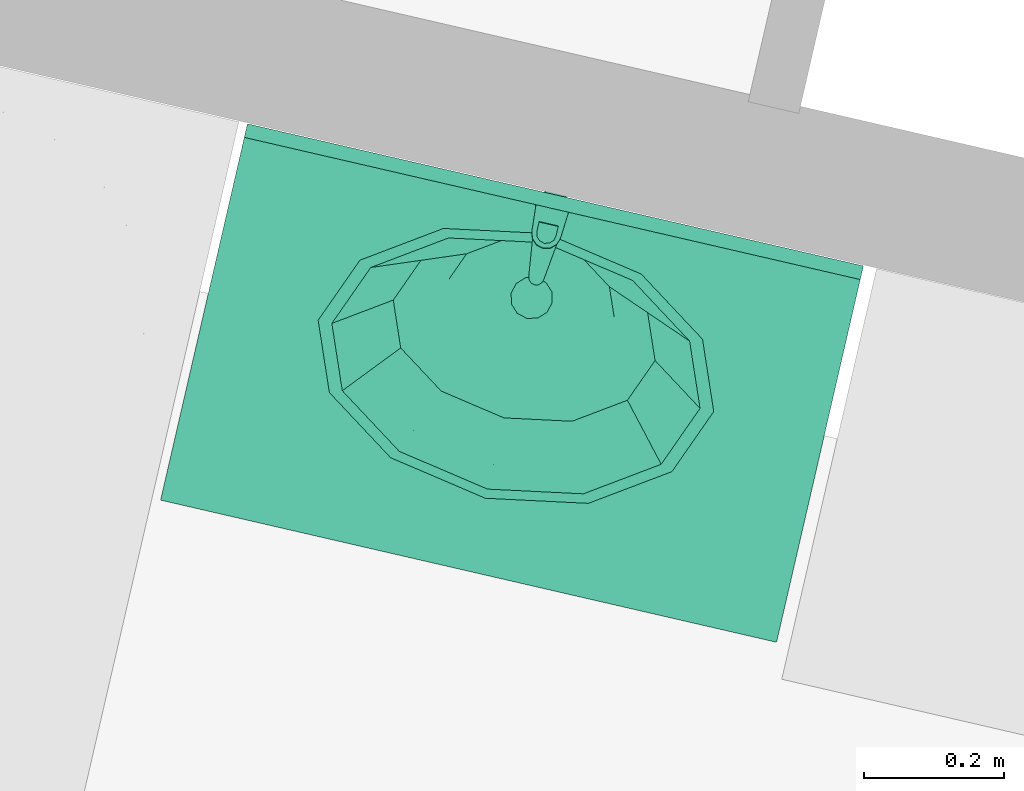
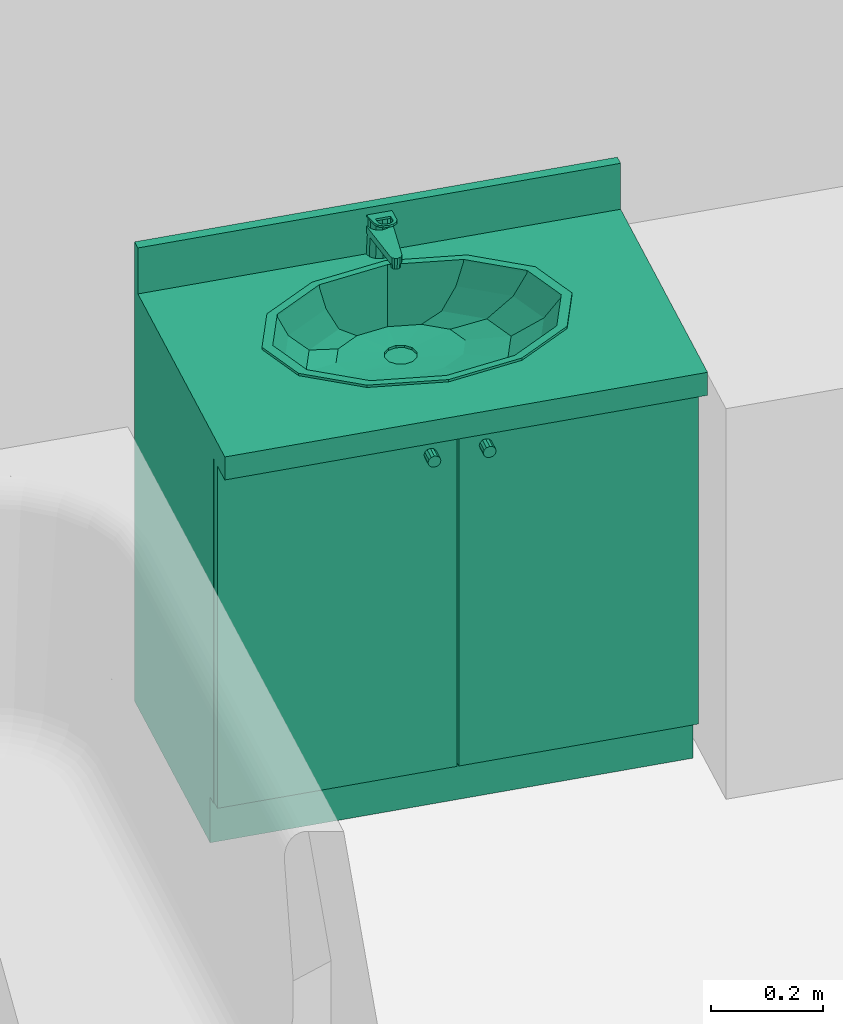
# One storey, part 115 of 119: 1 flow terminal.
"""IFC2X3 building model written with IfcOpenShell, lengths in metres."""

import ifcopenshell
import ifcopenshell.guid

model = None  # the IFC model being written
_history = None  # IfcOwnerHistory: only IFC2X3 demands one
_inside = {}  # id of a spatial element -> (the spatial element, [elements in it])
_under = {}  # id of a project, library or spatial element -> (it, [spatial elements below it])
_declared = {}  # id of a project -> (the project, [libraries it declares])
_typed = {}  # id of a type object -> (the type object, [elements of that type])
_made_of = {}  # id of a material, layer set ... -> (it, [elements and type objects made of it])


def new_model(schema):
    """Start an empty IFC model of exactly this schema.

    Asked for "IFC4X3", IfcOpenShell would pick the latest addendum, in which some entities
    have other attributes; the version numbers below select the first issue.
    IFC2X3 requires an IfcOwnerHistory on every rooted entity: one is made here for all.
    """
    global model, _history
    if schema == "IFC4X3":
        model = ifcopenshell.file(schema_version=(4, 3, 0, 0))
    else:
        model = ifcopenshell.file(schema=schema)
    _inside.clear()
    _under.clear()
    _declared.clear()
    _typed.clear()
    _made_of.clear()
    _history = None
    if model.schema == "IFC2X3":
        org = make("IfcOrganization", Name="unknown")
        user = make(
            "IfcPersonAndOrganization",
            ThePerson=make("IfcPerson", FamilyName="unknown"),
            TheOrganization=org,
        )
        app = make(
            "IfcApplication",
            ApplicationDeveloper=org,
            Version="unknown",
            ApplicationFullName="unknown",
            ApplicationIdentifier="unknown",
        )
        _history = make(
            "IfcOwnerHistory",
            OwningUser=user,
            OwningApplication=app,
            ChangeAction="ADDED",
            CreationDate=0,
        )
    return model


def make(cls, **values):
    """One entity of the class cls with the attributes given. An attribute that is None is left unset."""
    return model.create_entity(
        cls, **{name: value for name, value in values.items() if value is not None}
    )


def entity(cls, *values):
    """Any entity or typed value of the class cls, its attributes in the order of the schema. None: left unset."""
    e = model.create_entity(cls)
    for i, value in enumerate(values):
        if value is not None:
            e[i] = value
    return e


def rooted(cls, **values):
    """An entity with a GlobalId (a new one), such as an element, a storey or a relation."""
    return make(cls, GlobalId=ifcopenshell.guid.new(), OwnerHistory=_history, **values)


def si_unit(unit_type, name, prefix=None):
    """IfcSIUnit, for example si_unit("LENGTHUNIT", "METRE", prefix="MILLI")."""
    return make("IfcSIUnit", UnitType=unit_type, Prefix=prefix, Name=name)


def converted_unit(unit_type, name, factor, base, dimensions=None, offset=None):
    """IfcConversionBasedUnit, such as the inch: factor (a typed value) times the base unit."""
    return make(
        "IfcConversionBasedUnit"
        if offset is None
        else "IfcConversionBasedUnitWithOffset",
        ConversionOffset=offset,
        Dimensions=None
        if dimensions is None
        else entity("IfcDimensionalExponents", *dimensions),
        UnitType=unit_type,
        Name=name,
        ConversionFactor=make(
            "IfcMeasureWithUnit", ValueComponent=factor, UnitComponent=base
        ),
    )


def derived_unit(unit_type, elements):
    """IfcDerivedUnit: a product of units, each with its exponent."""
    return make(
        "IfcDerivedUnit",
        Elements=[
            make("IfcDerivedUnitElement", Unit=unit, Exponent=power)
            for unit, power in elements
        ],
        UnitType=unit_type,
    )


def money_unit(currency):
    """IfcMonetaryUnit."""
    return make("IfcMonetaryUnit", Currency=currency)


def assignment(units):
    """IfcUnitAssignment: the units of a project."""
    return None if units is None else make("IfcUnitAssignment", Units=units)


def point(xyz):
    """IfcCartesianPoint."""
    return None if xyz is None else make("IfcCartesianPoint", Coordinates=xyz)


def direction(xyz):
    """IfcDirection."""
    return None if xyz is None else make("IfcDirection", DirectionRatios=xyz)


def frame(location, z_axis=None, x_axis=None):
    """IfcAxis2Placement3D, a coordinate frame: its origin and axes. An axis left out is left unset."""
    return make(
        "IfcAxis2Placement3D",
        Location=point(location),
        Axis=direction(z_axis),
        RefDirection=direction(x_axis),
    )


def origin_with_axes():
    """The frame at (0, 0, 0) with the z axis (0, 0, 1) and the x axis (1, 0, 0) written out."""
    return frame((0.0, 0.0, 0.0), z_axis=(0.0, 0.0, 1.0), x_axis=(1.0, 0.0, 0.0))


def place(relative_to, where):
    """IfcLocalPlacement: puts the frame where relative to a parent placement (None: the world)."""
    return make(
        "IfcLocalPlacement", PlacementRelTo=relative_to, RelativePlacement=where
    )


def context(
    kind, dimensions, precision=None, world=None, true_north=None, identifier=None
):
    """IfcGeometricRepresentationContext, for example the 3D "Model" context."""
    return make(
        "IfcGeometricRepresentationContext",
        ContextIdentifier=identifier,
        ContextType=kind,
        CoordinateSpaceDimension=dimensions,
        Precision=precision,
        WorldCoordinateSystem=world,
        TrueNorth=true_north,
    )


def subcontext(parent, identifier, kind, view, scale=None):
    """IfcGeometricRepresentationSubContext, for example "Body" below "Model"."""
    return make(
        "IfcGeometricRepresentationSubContext",
        ContextIdentifier=identifier,
        ContextType=kind,
        ParentContext=parent,
        TargetScale=scale,
        TargetView=view,
    )


def project(units=None, contexts=None):
    """IfcProject with its units and contexts."""
    return rooted(
        "IfcProject",
        Name="project",
        RepresentationContexts=contexts,
        UnitsInContext=assignment(units),
    )


def spatial(cls, under=None, at=None, **own):
    """A site, building, storey or space (cls), placed at a placement, below another one or the project."""
    s = rooted(cls, ObjectPlacement=at, **own)
    if under is not None:
        _under.setdefault(under.id(), (under, []))[1].append(s)
    return s


def faces_of(points, faces, orient=None, outer=None):
    """IfcFace entities. A face is a list of loops; a loop is a list of indices into points, from 0.

    orient and outer hold one flag for each loop. By default every Orientation is true, the
    first loop of a face is its IfcFaceOuterBound and the others are IfcFaceBound.
    """
    made = []
    for i, loops in enumerate(faces):
        bounds = []
        for j, loop in enumerate(loops):
            is_outer = j == 0 if outer is None else outer[i][j]
            bounds.append(
                make(
                    "IfcFaceOuterBound" if is_outer else "IfcFaceBound",
                    Bound=make("IfcPolyLoop", Polygon=[points[k] for k in loop]),
                    Orientation=True if orient is None else orient[i][j],
                )
            )
        made.append(make("IfcFace", Bounds=bounds))
    return made


def open_shell(faces, orient=None, outer=None):
    """The faces of one IfcOpenShell. surface_model builds it on its shared points."""
    return ("IfcOpenShell", faces, orient, outer)


def faceted_brep(points, faces, orient=None, outer=None, voids=None):
    """IfcFacetedBrep: a solid bounded by flat faces; with voids (closed shells), ...WithVoids."""
    shared = [point(p) for p in points]
    hull = make("IfcClosedShell", CfsFaces=faces_of(shared, faces, orient, outer))
    if voids is None:
        return make("IfcFacetedBrep", Outer=hull)
    return make(
        "IfcFacetedBrepWithVoids",
        Outer=hull,
        Voids=[
            make(cls, CfsFaces=faces_of(shared, fs, o, b)) for cls, fs, o, b in voids
        ],
    )


def surface_model(cls, points, shells):
    """IfcFaceBasedSurfaceModel or IfcShellBasedSurfaceModel (cls): surfaces that need not close."""
    shared = [point(p) for p in points]
    made = [make(c, CfsFaces=faces_of(shared, fs, o, b)) for c, fs, o, b in shells]
    if cls == "IfcFaceBasedSurfaceModel":
        return make(cls, FbsmFaces=made)
    return make(cls, SbsmBoundary=made)


def shape(context_of_items, identifier, shape_type, items):
    """IfcShapeRepresentation: the items that make up one representation, for example the "Body"."""
    return make(
        "IfcShapeRepresentation",
        ContextOfItems=context_of_items,
        RepresentationIdentifier=identifier,
        RepresentationType=shape_type,
        Items=items,
    )


def made_of(thing, what):
    """Note that an element or type object is made of a material, layer set ...; save() writes the relation."""
    if what is not None:
        _made_of.setdefault(what.id(), (what, []))[1].append(thing)
    return thing


def type_object(cls, material=None, **own):
    """A type object (cls), such as IfcWallType, which elements share."""
    return made_of(rooted(cls, **own), material)


def element(
    cls,
    number,
    at=None,
    inside=None,
    cuts=None,
    type_object=None,
    material=None,
    context=None,
    identifier="Body",
    shape_type=None,
    held_by="IfcProductDefinitionShape",
    body=None,
    shapes=None,
    **own,
):
    """One element of the class cls, such as IfcWall. Its Tag is "e" and its number.

    at: its placement. inside: the storey or other place that contains it. cuts: it is an
    opening in that element (IfcRelVoidsElement). A single representation is given by context,
    identifier, shape_type and body (its items); several are given by shapes. held_by: the class
    of the entity that holds the representations. save() writes the other relations.
    """
    e = rooted(cls, Tag="e%d" % number, ObjectPlacement=at, **own)
    if body is not None:
        shapes = [shape(context, identifier, shape_type, body)]
    if shapes is not None:
        e.Representation = make(held_by, Representations=shapes)
    if inside is not None:
        _inside.setdefault(inside.id(), (inside, []))[1].append(e)
    if cuts is not None:
        rooted(
            "IfcRelVoidsElement", RelatingBuildingElement=cuts, RelatedOpeningElement=e
        )
    if type_object is not None:
        _typed.setdefault(type_object.id(), (type_object, []))[1].append(e)
    return made_of(e, material)


def aggregate(whole, parts):
    """IfcRelAggregates: a whole, such as a stair, and the parts it consists of."""
    return rooted("IfcRelAggregates", RelatingObject=whole, RelatedObjects=parts)


def save(model, path):
    """Write the relations noted so far, then the file.

    IfcRelAggregates (storeys below a building ...), IfcRelContainedInSpatialStructure (elements
    in a storey), IfcRelDefinesByType, IfcRelAssociatesMaterial and IfcRelDeclares: one each for
    every whole, place, type object, material and project.
    """
    for whole, parts in _under.values():
        aggregate(whole, parts)
    for where, things in _inside.values():
        rooted(
            "IfcRelContainedInSpatialStructure",
            RelatedElements=things,
            RelatingStructure=where,
        )
    for kind, things in _typed.values():
        rooted("IfcRelDefinesByType", RelatedObjects=things, RelatingType=kind)
    for what, things in _made_of.values():
        rooted("IfcRelAssociatesMaterial", RelatedObjects=things, RelatingMaterial=what)
    for by, libraries in _declared.values():
        rooted("IfcRelDeclares", RelatingContext=by, RelatedDefinitions=libraries)
    model.write(path)


model = new_model("IFC2X3")

# Units and contexts
model_context = context("Model", 3, precision=1e-05, world=origin_with_axes(), true_north=direction((0.0, 1.0)))
body_context = subcontext(model_context, "Body", "Model", "MODEL_VIEW")
ifc_project = project(units=[si_unit("LENGTHUNIT", "METRE"), si_unit("AREAUNIT", "SQUARE_METRE"), si_unit("VOLUMEUNIT", "CUBIC_METRE"), converted_unit("PLANEANGLEUNIT", "DEGREE", entity("IfcPlaneAngleMeasure", 0.0174532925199), si_unit("PLANEANGLEUNIT", "RADIAN"), dimensions=[0, 0, 0, 0, 0, 0, 0]), si_unit("SOLIDANGLEUNIT", "STERADIAN"), money_unit("EUR"), converted_unit("TIMEUNIT", "Year", entity("IfcTimeMeasure", 31556926.0), si_unit("TIMEUNIT", "SECOND"), dimensions=[0, 0, 1, 0, 0, 0, 0]), si_unit("MASSUNIT", "GRAM", prefix="KILO"), si_unit("THERMODYNAMICTEMPERATUREUNIT", "DEGREE_CELSIUS"), si_unit("LUMINOUSINTENSITYUNIT", "LUMEN"), si_unit("ENERGYUNIT", "JOULE", prefix="MEGA"), derived_unit("THERMALCONDUCTANCEUNIT", [(si_unit("POWERUNIT", "WATT"), 1), (si_unit("LENGTHUNIT", "METRE"), -1), (si_unit("THERMODYNAMICTEMPERATUREUNIT", "KELVIN"), -1)]), derived_unit("SPECIFICHEATCAPACITYUNIT", [(si_unit("ENERGYUNIT", "JOULE"), 1), (si_unit("MASSUNIT", "GRAM", prefix="KILO"), -1), (si_unit("THERMODYNAMICTEMPERATUREUNIT", "KELVIN"), -1)]), derived_unit("MASSDENSITYUNIT", [(si_unit("MASSUNIT", "GRAM", prefix="KILO"), 1), (si_unit("VOLUMEUNIT", "CUBIC_METRE"), -1)])], contexts=[model_context])

# Site, building, storey
site_placement = place(None, origin_with_axes())
site = spatial("IfcSite", under=ifc_project, at=site_placement, Name="Site", CompositionType="ELEMENT")
building_placement = place(site_placement, origin_with_axes())
building = spatial("IfcBuilding", under=site, at=building_placement, Name="Bâtiment", CompositionType="ELEMENT")
storey_placement = place(building_placement, origin_with_axes())
storey = spatial("IfcBuildingStorey", under=building, at=storey_placement, Name="Rez-de-chaussée", CompositionType="ELEMENT", Elevation=0.0)

# Flow terminal
sanitary_terminal_type = type_object("IfcSanitaryTerminalType", Name="Lavabo sur meuble 23", PredefinedType="NOTDEFINED")
flow_terminal_placement = place(storey_placement, frame((-4.16457030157, 13.2433466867, 0.0), z_axis=(0.0, 0.0, 1.0), x_axis=(0.974387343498, -0.224876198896, 0.0)))
element("IfcFlowTerminal", 1, at=flow_terminal_placement, inside=storey, type_object=sanitary_terminal_type, Name="MOB-002", ObjectType="SANITARY_TERMINAL", context=body_context, shape_type="SurfaceModel", body=[
    faceted_brep([(0.0, 0.09, 0.0), (0.0, 0.09, 0.1), (-0.9, 0.09, 0.1), (-0.9, 0.09, 0.0), (0.0, 0.55, 0.0), (0.0, 0.55, 0.1), (-0.9, 0.55, 0.1), (-0.9, 0.55, 0.0)], [[[0, 1, 2, 3]], [[4, 5, 1, 0]], [[1, 5, 6, 2]], [[3, 2, 6, 7]], [[0, 3, 7, 4]], [[7, 6, 5, 4]]]),
    faceted_brep([(0.0, 0.07, 0.1), (0.0, 0.07, 0.12), (-0.02, 0.07, 0.12), (-0.02, 0.07, 0.1), (0.0, 0.55, 0.1), (0.0, 0.55, 0.12), (-0.02, 0.55, 0.12), (-0.88, 0.55, 0.12), (-0.9, 0.55, 0.12), (-0.9, 0.07, 0.12), (-0.88, 0.07, 0.12), (-0.88, 0.07, 0.1), (-0.9, 0.07, 0.1), (-0.9, 0.55, 0.1), (-0.88, 0.55, 0.1), (-0.02, 0.55, 0.1)], [[[0, 1, 2, 3]], [[4, 5, 1, 0]], [[1, 5, 6, 7, 8, 9, 10, 2]], [[3, 2, 10, 11]], [[0, 3, 11, 12, 13, 14, 15, 4]], [[15, 6, 5, 4]], [[14, 7, 6, 15]], [[13, 8, 7, 14]], [[12, 9, 8, 13]], [[11, 10, 9, 12]]]),
    faceted_brep([(0.0, 0.07, 0.12), (0.0, 0.07, 0.85), (-0.02, 0.07, 0.85), (-0.02, 0.07, 0.12), (0.0, 0.55, 0.12), (0.0, 0.55, 0.85), (-0.9, 0.55, 0.85), (-0.9, 0.07, 0.85), (-0.88, 0.07, 0.85), (-0.88, 0.53, 0.85), (-0.02, 0.53, 0.85), (-0.02, 0.53, 0.12), (-0.88, 0.53, 0.12), (-0.88, 0.07, 0.12), (-0.9, 0.07, 0.12), (-0.9, 0.55, 0.12)], [[[0, 1, 2, 3]], [[4, 5, 1, 0]], [[1, 5, 6, 7, 8, 9, 10, 2]], [[3, 2, 10, 11]], [[0, 3, 11, 12, 13, 14, 15, 4]], [[15, 6, 5, 4]], [[14, 7, 6, 15]], [[13, 8, 7, 14]], [[12, 9, 8, 13]], [[11, 10, 9, 12]]]),
    faceted_brep([(-0.88, 0.07, 0.323333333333), (-0.88, 0.07, 0.343333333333), (-0.88, 0.53, 0.343333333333), (-0.88, 0.53, 0.323333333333), (-0.02, 0.07, 0.323333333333), (-0.02, 0.07, 0.343333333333), (-0.02, 0.53, 0.343333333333), (-0.02, 0.53, 0.323333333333)], [[[0, 1, 2, 3]], [[4, 5, 1, 0]], [[1, 5, 6, 2]], [[3, 2, 6, 7]], [[0, 3, 7, 4]], [[7, 6, 5, 4]]]),
    faceted_brep([(-0.88, 0.07, 0.566666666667), (-0.88, 0.07, 0.586666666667), (-0.88, 0.53, 0.586666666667), (-0.88, 0.53, 0.566666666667), (-0.02, 0.07, 0.566666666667), (-0.02, 0.07, 0.586666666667), (-0.02, 0.53, 0.586666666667), (-0.02, 0.53, 0.566666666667)], [[[0, 1, 2, 3]], [[4, 5, 1, 0]], [[1, 5, 6, 2]], [[3, 2, 6, 7]], [[0, 3, 7, 4]], [[7, 6, 5, 4]]]),
    faceted_brep([(0.0, 0.55, 0.85), (0.0, 0.0, 0.85), (-0.9, 0.0, 0.85), (-0.9, 0.55, 0.85), (-0.585, 0.144115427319, 0.85), (-0.45, 0.12, 0.85), (-0.315, 0.144115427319, 0.85), (-0.216173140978, 0.21, 0.85), (-0.18, 0.3, 0.85), (-0.216173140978, 0.39, 0.85), (-0.315, 0.455884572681, 0.85), (-0.45, 0.48, 0.85), (-0.585, 0.455884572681, 0.85), (-0.683826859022, 0.39, 0.85), (-0.72, 0.3, 0.85), (-0.683826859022, 0.21, 0.85), (0.0, 0.55, 0.9), (0.0, 0.0, 0.9), (-0.9, 0.0, 0.9), (-0.9, 0.55, 0.9), (-0.45, 0.12, 0.9), (-0.585, 0.144115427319, 0.9), (-0.315, 0.144115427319, 0.9), (-0.216173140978, 0.21, 0.9), (-0.18, 0.3, 0.9), (-0.216173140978, 0.39, 0.9), (-0.315, 0.455884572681, 0.9), (-0.45, 0.48, 0.9), (-0.585, 0.455884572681, 0.9), (-0.683826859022, 0.39, 0.9), (-0.72, 0.3, 0.9), (-0.683826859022, 0.21, 0.9)], [[[0, 1, 2, 3], [4, 5, 6, 7, 8, 9, 10, 11, 12, 13, 14, 15]], [[1, 0, 16, 17]], [[2, 1, 17, 18]], [[3, 2, 18, 19]], [[0, 3, 19, 16]], [[20, 5, 4, 21]], [[22, 6, 5, 20]], [[23, 7, 6, 22]], [[24, 8, 7, 23]], [[25, 9, 8, 24]], [[26, 10, 9, 25]], [[27, 11, 10, 26]], [[28, 12, 11, 27]], [[29, 13, 12, 28]], [[30, 14, 13, 29]], [[31, 15, 14, 30]], [[21, 4, 15, 31]], [[18, 17, 16, 19], [28, 27, 26, 25, 24, 23, 22, 20, 21, 31, 30, 29]]]),
    faceted_brep([(0.0, 0.53, 0.9), (0.0, 0.53, 1.0), (-0.9, 0.53, 1.0), (-0.9, 0.53, 0.9), (0.0, 0.55, 0.9), (0.0, 0.55, 1.0), (-0.9, 0.55, 1.0), (-0.9, 0.55, 0.9)], [[[0, 1, 2, 3]], [[4, 5, 1, 0]], [[1, 5, 6, 2]], [[3, 2, 6, 7]], [[0, 3, 7, 4]], [[7, 6, 5, 4]]]),
    faceted_brep([(-0.739, 0.3, 0.905), (-0.700281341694, 0.396691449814, 0.905), (-0.700281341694, 0.396691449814, 0.9), (-0.739, 0.3, 0.9), (-0.700281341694, 0.203308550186, 0.905), (-0.5945, 0.132525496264, 0.905), (-0.45, 0.106617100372, 0.905), (-0.3055, 0.132525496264, 0.905), (-0.199718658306, 0.203308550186, 0.905), (-0.161, 0.3, 0.905), (-0.199718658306, 0.396691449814, 0.905), (-0.3055, 0.467474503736, 0.905), (-0.45, 0.493382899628, 0.905), (-0.5945, 0.467474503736, 0.905), (-0.719, 0.3, 0.905), (-0.682960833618, 0.39, 0.905), (-0.5845, 0.455884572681, 0.905), (-0.45, 0.48, 0.905), (-0.3155, 0.455884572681, 0.905), (-0.217039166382, 0.39, 0.905), (-0.181, 0.3, 0.905), (-0.217039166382, 0.21, 0.905), (-0.3155, 0.144115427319, 0.905), (-0.45, 0.12, 0.905), (-0.5845, 0.144115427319, 0.905), (-0.682960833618, 0.21, 0.905), (-0.5945, 0.467474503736, 0.9), (-0.45, 0.493382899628, 0.9), (-0.3055, 0.467474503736, 0.9), (-0.199718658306, 0.396691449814, 0.9), (-0.161, 0.3, 0.9), (-0.199718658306, 0.203308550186, 0.9), (-0.3055, 0.132525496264, 0.9), (-0.45, 0.106617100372, 0.9), (-0.5945, 0.132525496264, 0.9), (-0.700281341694, 0.203308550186, 0.9), (-0.719, 0.3, 0.9), (-0.682960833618, 0.21, 0.9), (-0.5845, 0.144115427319, 0.9), (-0.45, 0.12, 0.9), (-0.3155, 0.144115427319, 0.9), (-0.217039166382, 0.21, 0.9), (-0.181, 0.3, 0.9), (-0.217039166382, 0.39, 0.9), (-0.3155, 0.455884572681, 0.9), (-0.45, 0.48, 0.9), (-0.5845, 0.455884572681, 0.9), (-0.682960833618, 0.39, 0.9)], [[[0, 1, 2, 3]], [[0, 4, 5, 6, 7, 8, 9, 10, 11, 12, 13, 1], [14, 15, 16, 17, 18, 19, 20, 21, 22, 23, 24, 25]], [[1, 13, 26, 2]], [[3, 2, 26, 27, 28, 29, 30, 31, 32, 33, 34, 35], [36, 37, 38, 39, 40, 41, 42, 43, 44, 45, 46, 47]], [[4, 0, 3, 35]], [[5, 4, 35, 34]], [[6, 5, 34, 33]], [[7, 6, 33, 32]], [[8, 7, 32, 31]], [[9, 8, 31, 30]], [[10, 9, 30, 29]], [[11, 10, 29, 28]], [[12, 11, 28, 27]], [[13, 12, 27, 26]], [[15, 14, 36, 47]], [[16, 15, 47, 46]], [[17, 16, 46, 45]], [[18, 17, 45, 44]], [[19, 18, 44, 43]], [[20, 19, 43, 42]], [[21, 20, 42, 41]], [[22, 21, 41, 40]], [[23, 22, 40, 39]], [[24, 23, 39, 38]], [[25, 24, 38, 37]], [[14, 25, 37, 36]]]),
    surface_model("IfcShellBasedSurfaceModel", [(-0.45, 0.48, 0.9), (-0.5845, 0.455884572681, 0.9), (-0.57105, 0.458296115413, 0.848), (-0.45, 0.48, 0.848), (-0.682960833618, 0.39, 0.9), (-0.659664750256, 0.399, 0.848), (-0.3155, 0.455884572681, 0.9), (-0.32895, 0.458296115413, 0.848), (-0.719, 0.3, 0.9), (-0.6921, 0.318, 0.848), (-0.217039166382, 0.39, 0.9), (-0.240335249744, 0.399, 0.848), (-0.682960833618, 0.21, 0.9), (-0.659664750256, 0.237, 0.848), (-0.181, 0.3, 0.9), (-0.2079, 0.318, 0.848), (-0.5845, 0.144115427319, 0.9), (-0.57105, 0.177703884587, 0.848), (-0.217039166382, 0.21, 0.9), (-0.240335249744, 0.237, 0.848), (-0.45, 0.12, 0.9), (-0.45, 0.156, 0.848), (-0.3155, 0.144115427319, 0.9), (-0.32895, 0.177703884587, 0.848)], [open_shell([[[0, 1, 2, 3]], [[1, 4, 5, 2]], [[6, 0, 3, 7]], [[4, 8, 9, 5]], [[10, 6, 7, 11]], [[8, 12, 13, 9]], [[14, 10, 11, 15]], [[12, 16, 17, 13]], [[18, 14, 15, 19]], [[16, 20, 21, 17]], [[22, 18, 19, 23]], [[20, 22, 23, 21]]])]),
    surface_model("IfcShellBasedSurfaceModel", [(-0.45, 0.48, 0.848), (-0.57105, 0.458296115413, 0.848), (-0.5456295, 0.462853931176, 0.796), (-0.45, 0.48, 0.796), (-0.659664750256, 0.399, 0.848), (-0.615635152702, 0.41601, 0.796), (-0.32895, 0.458296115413, 0.848), (-0.3543705, 0.462853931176, 0.796), (-0.6921, 0.318, 0.848), (-0.641259, 0.35202, 0.796), (-0.240335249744, 0.399, 0.848), (-0.284364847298, 0.41601, 0.796), (-0.659664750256, 0.237, 0.848), (-0.615635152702, 0.28803, 0.796), (-0.2079, 0.318, 0.848), (-0.258741, 0.35202, 0.796), (-0.57105, 0.177703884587, 0.848), (-0.5456295, 0.241186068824, 0.796), (-0.240335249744, 0.237, 0.848), (-0.284364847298, 0.28803, 0.796), (-0.45, 0.156, 0.848), (-0.45, 0.22404, 0.796), (-0.32895, 0.177703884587, 0.848), (-0.3543705, 0.241186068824, 0.796)], [open_shell([[[0, 1, 2, 3]], [[1, 4, 5, 2]], [[6, 0, 3, 7]], [[4, 8, 9, 5]], [[10, 6, 7, 11]], [[8, 12, 13, 9]], [[14, 10, 11, 15]], [[12, 16, 17, 13]], [[18, 14, 15, 19]], [[16, 20, 21, 17]], [[22, 18, 19, 23]], [[20, 22, 23, 21]]])]),
    surface_model("IfcShellBasedSurfaceModel", [(-0.45, 0.48, 0.796), (-0.5456295, 0.462853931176, 0.796), (-0.510246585, 0.469197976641, 0.77), (-0.45, 0.48, 0.77), (-0.615635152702, 0.41601, 0.796), (-0.554350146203, 0.4396863, 0.77), (-0.3543705, 0.462853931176, 0.796), (-0.389753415, 0.469197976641, 0.77), (-0.641259, 0.35202, 0.796), (-0.57049317, 0.3993726, 0.77), (-0.284364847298, 0.41601, 0.796), (-0.345649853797, 0.4396863, 0.77), (-0.615635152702, 0.28803, 0.796), (-0.554350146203, 0.3590589, 0.77), (-0.258741, 0.35202, 0.796), (-0.32950683, 0.3993726, 0.77), (-0.5456295, 0.241186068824, 0.796), (-0.510246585, 0.329547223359, 0.77), (-0.284364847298, 0.28803, 0.796), (-0.345649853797, 0.3590589, 0.77), (-0.45, 0.22404, 0.796), (-0.45, 0.3187452, 0.77), (-0.3543705, 0.241186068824, 0.796), (-0.389753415, 0.329547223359, 0.77)], [open_shell([[[0, 1, 2, 3]], [[1, 4, 5, 2]], [[6, 0, 3, 7]], [[4, 8, 9, 5]], [[10, 6, 7, 11]], [[8, 12, 13, 9]], [[14, 10, 11, 15]], [[12, 16, 17, 13]], [[18, 14, 15, 19]], [[16, 20, 21, 17]], [[22, 18, 19, 23]], [[20, 22, 23, 21]]])]),
    surface_model("IfcShellBasedSurfaceModel", [(-0.45, 0.48, 0.77), (-0.510246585, 0.469197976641, 0.77), (-0.465, 0.425353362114, 0.763), (-0.475980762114, 0.4143726, 0.763), (-0.45, 0.4293726, 0.763), (-0.554350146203, 0.4396863, 0.77), (-0.389753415, 0.469197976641, 0.77), (-0.48, 0.3993726, 0.763), (-0.435, 0.425353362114, 0.763), (-0.57049317, 0.3993726, 0.77), (-0.345649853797, 0.4396863, 0.77), (-0.475980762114, 0.3843726, 0.763), (-0.424019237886, 0.4143726, 0.763), (-0.554350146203, 0.3590589, 0.77), (-0.32950683, 0.3993726, 0.77), (-0.465, 0.373391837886, 0.763), (-0.42, 0.3993726, 0.763), (-0.510246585, 0.329547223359, 0.77), (-0.345649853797, 0.3590589, 0.77), (-0.45, 0.3693726, 0.763), (-0.424019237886, 0.3843726, 0.763), (-0.45, 0.3187452, 0.77), (-0.389753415, 0.329547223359, 0.77), (-0.435, 0.373391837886, 0.763)], [open_shell([[[0, 1, 2]], [[1, 3, 2]], [[0, 2, 4]], [[1, 5, 3]], [[6, 0, 4]], [[5, 7, 3]], [[6, 4, 8]], [[5, 9, 7]], [[10, 6, 8]], [[9, 11, 7]], [[10, 8, 12]], [[9, 13, 11]], [[14, 10, 12]], [[13, 15, 11]], [[14, 12, 16]], [[13, 17, 15]], [[18, 14, 16]], [[17, 19, 15]], [[18, 16, 20]], [[17, 21, 19]], [[22, 18, 20]], [[21, 23, 19]], [[22, 20, 23]], [[21, 22, 23]]])]),
    surface_model("IfcShellBasedSurfaceModel", [(-0.48, 0.3993726, 0.763), (-0.475980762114, 0.4143726, 0.763), (-0.475980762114, 0.4143726, 0.758), (-0.48, 0.3993726, 0.758), (-0.465, 0.425353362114, 0.763), (-0.465, 0.425353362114, 0.758), (-0.45, 0.4293726, 0.758), (-0.435, 0.425353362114, 0.758), (-0.424019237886, 0.4143726, 0.758), (-0.42, 0.3993726, 0.758), (-0.424019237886, 0.3843726, 0.758), (-0.435, 0.373391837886, 0.758), (-0.45, 0.3693726, 0.758), (-0.465, 0.373391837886, 0.758), (-0.475980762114, 0.3843726, 0.758), (-0.475980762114, 0.3843726, 0.763), (-0.45, 0.4293726, 0.763), (-0.435, 0.425353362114, 0.763), (-0.424019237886, 0.4143726, 0.763), (-0.42, 0.3993726, 0.763), (-0.424019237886, 0.3843726, 0.763), (-0.435, 0.373391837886, 0.763), (-0.45, 0.3693726, 0.763), (-0.465, 0.373391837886, 0.763)], [open_shell([[[0, 1, 2, 3]], [[1, 4, 5, 2]], [[3, 2, 5, 6, 7, 8, 9, 10, 11, 12, 13, 14]], [[15, 0, 3, 14]], [[4, 16, 6, 5]], [[16, 17, 7, 6]], [[17, 18, 8, 7]], [[18, 19, 9, 8]], [[19, 20, 10, 9]], [[20, 21, 11, 10]], [[21, 22, 12, 11]], [[22, 23, 13, 12]], [[23, 15, 14, 13]]])]),
    faceted_brep([(-0.4625, 0.554150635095, 0.9), (-0.460587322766, 0.550837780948, 0.976507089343), (-0.45, 0.553701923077, 0.975961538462), (-0.45, 0.5575, 0.9), (-0.471650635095, 0.545, 0.9), (-0.468273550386, 0.543050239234, 0.977990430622), (-0.471, 0.5325, 0.98), (-0.468100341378, 0.522049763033, 0.981990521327), (-0.460414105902, 0.514462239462, 0.983435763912), (-0.45, 0.511698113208, 0.983962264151), (-0.439585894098, 0.514462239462, 0.983435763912), (-0.431899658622, 0.522049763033, 0.981990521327), (-0.429, 0.5325, 0.98), (-0.431726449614, 0.543050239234, 0.977990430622), (-0.439412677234, 0.550837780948, 0.976507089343), (-0.4375, 0.554150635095, 0.9), (-0.428349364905, 0.545, 0.9), (-0.425, 0.5325, 0.9), (-0.428349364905, 0.52, 0.9), (-0.4375, 0.510849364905, 0.9), (-0.45, 0.5075, 0.9), (-0.4625, 0.510849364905, 0.9), (-0.471650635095, 0.52, 0.9), (-0.475, 0.5325, 0.9)], [[[0, 1, 2, 3]], [[4, 5, 1, 0]], [[1, 5, 6, 7, 8, 9, 10, 11, 12, 13, 14, 2]], [[3, 2, 14, 15]], [[0, 3, 15, 16, 17, 18, 19, 20, 21, 22, 23, 4]], [[23, 6, 5, 4]], [[22, 7, 6, 23]], [[21, 8, 7, 22]], [[20, 9, 8, 21]], [[19, 10, 9, 20]], [[18, 11, 10, 19]], [[17, 12, 11, 18]], [[16, 13, 12, 17]], [[15, 14, 13, 16]]]),
    faceted_brep([(-0.459, 0.4295, 0.935), (-0.459, 0.4295, 0.945), (-0.457794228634, 0.434, 0.945), (-0.457794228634, 0.434, 0.935), (-0.457794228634, 0.425, 0.935), (-0.457794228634, 0.425, 0.945), (-0.4545, 0.421705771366, 0.945), (-0.45, 0.4205, 0.945), (-0.4455, 0.421705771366, 0.945), (-0.442205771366, 0.425, 0.945), (-0.441, 0.4295, 0.945), (-0.442205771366, 0.434, 0.945), (-0.4455, 0.437294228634, 0.945), (-0.45, 0.4385, 0.945), (-0.4545, 0.437294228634, 0.945), (-0.4545, 0.437294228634, 0.935), (-0.45, 0.4385, 0.935), (-0.4455, 0.437294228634, 0.935), (-0.442205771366, 0.434, 0.935), (-0.441, 0.4295, 0.935), (-0.442205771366, 0.425, 0.935), (-0.4455, 0.421705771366, 0.935), (-0.45, 0.4205, 0.935), (-0.4545, 0.421705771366, 0.935)], [[[0, 1, 2, 3]], [[4, 5, 1, 0]], [[1, 5, 6, 7, 8, 9, 10, 11, 12, 13, 14, 2]], [[3, 2, 14, 15]], [[0, 3, 15, 16, 17, 18, 19, 20, 21, 22, 23, 4]], [[23, 6, 5, 4]], [[22, 7, 6, 23]], [[21, 8, 7, 22]], [[20, 9, 8, 21]], [[19, 10, 9, 20]], [[18, 11, 10, 19]], [[17, 12, 11, 18]], [[16, 13, 12, 17]], [[15, 14, 13, 16]]]),
    faceted_brep([(-0.437128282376, 0.552756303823, 0.96), (-0.45000000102, 0.556499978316, 0.96), (-0.462871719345, 0.552756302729, 0.96), (-0.471727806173, 0.542693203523, 0.96), (-0.473805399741, 0.529450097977, 0.96), (-0.460912, 0.4281117, 0.96), (-0.459028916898, 0.423216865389, 0.96), (-0.455093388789, 0.419750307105, 0.96), (-0.450000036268, 0.41850003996, 0.96), (-0.444906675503, 0.419750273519, 0.96), (-0.440971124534, 0.423216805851, 0.96), (-0.439088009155, 0.428111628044, 0.96), (-0.4261946, 0.5294501, 0.96), (-0.428272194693, 0.54269320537, 0.96), (-0.461, 0.551552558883, 0.96), (-0.45, 0.5545, 0.96), (-0.439, 0.551552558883, 0.96), (-0.430947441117, 0.5435, 0.96), (-0.428, 0.5325, 0.96), (-0.430947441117, 0.5215, 0.96), (-0.439, 0.513447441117, 0.96), (-0.45, 0.5105, 0.96), (-0.461, 0.513447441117, 0.96), (-0.469052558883, 0.5215, 0.96), (-0.472, 0.5325, 0.96), (-0.469052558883, 0.5435, 0.96), (-0.437128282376, 0.552756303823, 0.945), (-0.45000000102, 0.556499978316, 0.945), (-0.462871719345, 0.552756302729, 0.945), (-0.471727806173, 0.542693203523, 0.945), (-0.473805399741, 0.529450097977, 0.945), (-0.460912, 0.4281117, 0.945), (-0.459028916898, 0.423216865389, 0.945), (-0.455093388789, 0.419750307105, 0.945), (-0.450000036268, 0.41850003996, 0.945), (-0.444906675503, 0.419750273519, 0.945), (-0.440971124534, 0.423216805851, 0.945), (-0.439088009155, 0.428111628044, 0.945), (-0.4261946, 0.5294501, 0.945), (-0.428272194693, 0.54269320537, 0.945), (-0.45, 0.55525, 0.945), (-0.461375, 0.552202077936, 0.945), (-0.438625, 0.552202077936, 0.945), (-0.430297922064, 0.543875, 0.945), (-0.42725, 0.5325, 0.945), (-0.430297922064, 0.521125, 0.945), (-0.438625, 0.512797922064, 0.945), (-0.45, 0.50975, 0.945), (-0.461375, 0.512797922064, 0.945), (-0.469702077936, 0.521125, 0.945), (-0.47275, 0.5325, 0.945), (-0.469702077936, 0.543875, 0.945)], [[[0, 1, 2, 3, 4, 5, 6, 7, 8, 9, 10, 11, 12, 13], [14, 15, 16, 17, 18, 19, 20, 21, 22, 23, 24, 25]], [[26, 27, 1, 0]], [[27, 28, 2, 1]], [[28, 29, 3, 2]], [[29, 30, 4, 3]], [[30, 31, 5, 4]], [[31, 32, 6, 5]], [[32, 33, 7, 6]], [[33, 34, 8, 7]], [[34, 35, 9, 8]], [[35, 36, 10, 9]], [[36, 37, 11, 10]], [[37, 38, 12, 11]], [[38, 39, 13, 12]], [[39, 26, 0, 13]], [[40, 15, 14, 41]], [[42, 16, 15, 40]], [[16, 42, 43, 17]], [[17, 43, 44, 18]], [[18, 44, 45, 19]], [[19, 45, 46, 20]], [[20, 46, 47, 21]], [[48, 22, 21, 47]], [[49, 23, 22, 48]], [[50, 24, 23, 49]], [[51, 25, 24, 50]], [[41, 14, 25, 51]], [[34, 33, 32, 31, 30, 29, 28, 27, 26, 39, 38, 37, 36, 35], [48, 47, 46, 45, 44, 43, 42, 40, 41, 51, 50, 49]]]),
    faceted_brep([(-0.473893, 0.53080743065, 0.980322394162), (-0.473893, 0.531555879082, 0.984251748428), (-0.471296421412, 0.544023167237, 0.981877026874), (-0.471296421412, 0.543274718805, 0.977947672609), (-0.470945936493, 0.490663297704, 0.987968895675), (-0.470945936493, 0.491411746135, 0.991898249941), (-0.467663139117, 0.48173408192, 0.993741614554), (-0.460061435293, 0.47478470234, 0.995065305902), (-0.449999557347, 0.472262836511, 0.995545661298), (-0.439937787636, 0.474785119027, 0.995065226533), (-0.432336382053, 0.481734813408, 0.993741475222), (-0.429054, 0.491412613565, 0.991898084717), (-0.426106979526, 0.531556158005, 0.984251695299), (-0.428703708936, 0.544023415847, 0.98187697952), (-0.43752831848, 0.553339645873, 0.980102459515), (-0.450000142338, 0.556780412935, 0.979447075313), (-0.46247192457, 0.553339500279, 0.980102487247), (-0.464, 0.507707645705, 0.988794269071), (-0.436, 0.507707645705, 0.988794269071), (-0.436, 0.492892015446, 0.991616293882), (-0.437875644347, 0.486015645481, 0.992926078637), (-0.443, 0.480981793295, 0.993884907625), (-0.45, 0.479139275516, 0.994235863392), (-0.457, 0.480981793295, 0.993884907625), (-0.462124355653, 0.486015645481, 0.992926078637), (-0.464, 0.492892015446, 0.991616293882), (-0.46247192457, 0.552591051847, 0.976173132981), (-0.450000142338, 0.556031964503, 0.975517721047), (-0.43752831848, 0.552591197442, 0.976173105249), (-0.428703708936, 0.543274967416, 0.977947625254), (-0.426106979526, 0.530807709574, 0.980322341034), (-0.429054, 0.490664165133, 0.987968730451), (-0.432336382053, 0.480986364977, 0.989812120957), (-0.439937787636, 0.474036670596, 0.991135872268), (-0.449999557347, 0.47151438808, 0.991616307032), (-0.460061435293, 0.474036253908, 0.991135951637), (-0.467663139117, 0.480985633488, 0.989812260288), (-0.464, 0.506959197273, 0.984864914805), (-0.464, 0.492143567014, 0.987686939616), (-0.462124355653, 0.485267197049, 0.988996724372), (-0.457, 0.480233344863, 0.989955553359), (-0.45, 0.478390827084, 0.990306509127), (-0.443, 0.480233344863, 0.989955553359), (-0.437875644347, 0.485267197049, 0.988996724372), (-0.436, 0.492143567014, 0.987686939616), (-0.436, 0.506959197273, 0.984864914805)], [[[0, 1, 2, 3]], [[4, 5, 1, 0]], [[1, 5, 6, 7, 8, 9, 10, 11, 12, 13, 14, 15, 16, 2], [17, 18, 19, 20, 21, 22, 23, 24, 25]], [[3, 2, 16, 26]], [[0, 3, 26, 27, 28, 29, 30, 31, 32, 33, 34, 35, 36, 4], [37, 38, 39, 40, 41, 42, 43, 44, 45]], [[36, 6, 5, 4]], [[35, 7, 6, 36]], [[34, 8, 7, 35]], [[33, 9, 8, 34]], [[32, 10, 9, 33]], [[31, 11, 10, 32]], [[30, 12, 11, 31]], [[29, 13, 12, 30]], [[28, 14, 13, 29]], [[27, 15, 14, 28]], [[26, 16, 15, 27]], [[45, 18, 17, 37]], [[44, 19, 18, 45]], [[43, 20, 19, 44]], [[42, 21, 20, 43]], [[41, 22, 21, 42]], [[40, 23, 22, 41]], [[39, 24, 23, 40]], [[38, 25, 24, 39]], [[37, 17, 25, 38]]]),
    faceted_brep([(-0.0015, 0.07, 0.1015), (-0.0015, 0.05, 0.1015), (-0.4485, 0.05, 0.1015), (-0.4485, 0.07, 0.1015), (-0.0015, 0.07, 0.8485), (-0.0015, 0.05, 0.8485), (-0.4485, 0.05, 0.8485), (-0.4485, 0.07, 0.8485)], [[[0, 1, 2, 3]], [[4, 5, 1, 0]], [[1, 5, 6, 2]], [[3, 2, 6, 7]], [[0, 3, 7, 4]], [[7, 6, 5, 4]]]),
    faceted_brep([(-0.408892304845, 0.05, 0.7855), (-0.4105, 0.05, 0.7915), (-0.408892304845, 0.05, 0.7975), (-0.4045, 0.05, 0.801892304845), (-0.3985, 0.05, 0.8035), (-0.3925, 0.05, 0.801892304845), (-0.388107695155, 0.05, 0.7975), (-0.3865, 0.05, 0.7915), (-0.388107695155, 0.05, 0.7855), (-0.3925, 0.05, 0.781107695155), (-0.3985, 0.05, 0.7795), (-0.4045, 0.05, 0.781107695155), (-0.408892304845, 0.025, 0.7855), (-0.4105, 0.025, 0.7915), (-0.408892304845, 0.025, 0.7975), (-0.4045, 0.025, 0.801892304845), (-0.3985, 0.025, 0.8035), (-0.3925, 0.025, 0.801892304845), (-0.388107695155, 0.025, 0.7975), (-0.3865, 0.025, 0.7915), (-0.388107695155, 0.025, 0.7855), (-0.3925, 0.025, 0.781107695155), (-0.3985, 0.025, 0.7795), (-0.4045, 0.025, 0.781107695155)], [[[0, 1, 2, 3, 4, 5, 6, 7, 8, 9, 10, 11]], [[0, 12, 13, 1]], [[1, 13, 14, 2]], [[2, 14, 15, 3]], [[3, 15, 16, 4]], [[4, 16, 17, 5]], [[5, 17, 18, 6]], [[6, 18, 19, 7]], [[7, 19, 20, 8]], [[8, 20, 21, 9]], [[9, 21, 22, 10]], [[10, 22, 23, 11]], [[11, 23, 12, 0]], [[12, 23, 22, 21, 20, 19, 18, 17, 16, 15, 14, 13]]]),
    faceted_brep([(-0.8985, 0.07, 0.1015), (-0.4515, 0.07, 0.1015), (-0.4515, 0.05, 0.1015), (-0.8985, 0.05, 0.1015), (-0.8985, 0.07, 0.8485), (-0.4515, 0.07, 0.8485), (-0.4515, 0.05, 0.8485), (-0.8985, 0.05, 0.8485)], [[[0, 1, 2, 3]], [[0, 4, 5, 1]], [[1, 5, 6, 2]], [[3, 2, 6, 7]], [[4, 0, 3, 7]], [[5, 4, 7, 6]]]),
    faceted_brep([(-0.491107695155, 0.05, 0.7855), (-0.4955, 0.05, 0.781107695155), (-0.5015, 0.05, 0.7795), (-0.5075, 0.05, 0.781107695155), (-0.511892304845, 0.05, 0.7855), (-0.5135, 0.05, 0.7915), (-0.511892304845, 0.05, 0.7975), (-0.5075, 0.05, 0.801892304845), (-0.5015, 0.05, 0.8035), (-0.4955, 0.05, 0.801892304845), (-0.491107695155, 0.05, 0.7975), (-0.4895, 0.05, 0.7915), (-0.491107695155, 0.025, 0.7855), (-0.4955, 0.025, 0.781107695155), (-0.5015, 0.025, 0.7795), (-0.5075, 0.025, 0.781107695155), (-0.511892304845, 0.025, 0.7855), (-0.5135, 0.025, 0.7915), (-0.511892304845, 0.025, 0.7975), (-0.5075, 0.025, 0.801892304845), (-0.5015, 0.025, 0.8035), (-0.4955, 0.025, 0.801892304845), (-0.491107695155, 0.025, 0.7975), (-0.4895, 0.025, 0.7915)], [[[0, 1, 2, 3, 4, 5, 6, 7, 8, 9, 10, 11]], [[1, 0, 12, 13]], [[2, 1, 13, 14]], [[3, 2, 14, 15]], [[4, 3, 15, 16]], [[5, 4, 16, 17]], [[6, 5, 17, 18]], [[7, 6, 18, 19]], [[8, 7, 19, 20]], [[9, 8, 20, 21]], [[10, 9, 21, 22]], [[11, 10, 22, 23]], [[0, 11, 23, 12]], [[12, 23, 22, 21, 20, 19, 18, 17, 16, 15, 14, 13]]]),
])

save(model, "model.ifc")
